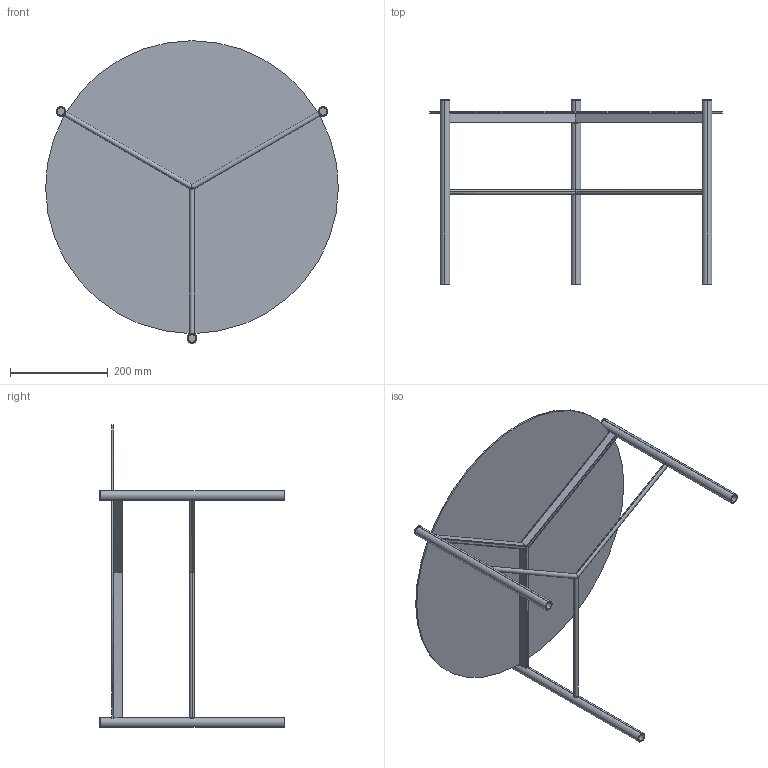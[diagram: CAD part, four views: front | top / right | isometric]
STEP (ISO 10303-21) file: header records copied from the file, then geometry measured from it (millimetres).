
FILE_DESCRIPTION (( 'STEP AP203' ), '1' );
FILE_NAME ('J201S.STEP', '2024-08-06T11:29:03', ( '' ), ( '' ), 'SwSTEP 2.0', 'SolidWorks 2022', '' );
FILE_SCHEMA (( 'CONFIG_CONTROL_DESIGN' ));
Length unit declared in the file: millimetre
Products named in the file (2): JXXXS00000000-00-jack metallo grezzo tutte le misure_J201S00000000-JACK TAVOLINO D.60x36h<A macchina>; J201S
Assembly tree (1 placements, depth 2):
  J201S
    JXXXS00000000-00-jack metallo grezzo tutte le misure_J201S00000000-JACK TAVOLINO D.60x36h<A macchina>
Bounding box: 599.97 x 379 x 620.07 mm (x, y, z)
Volume: 1048731.1 mm3; surface area: 843895.5 mm2
Topology: 13 solids, 13 shells, 121 faces, 287 edges, 190 vertices
Faces by surface type: cylinder 71, plane 50
Entity records: 4317 total; most frequent: CARTESIAN_POINT 1434, ORIENTED_EDGE 574, DIRECTION 521, EDGE_CURVE 287, VERTEX_POINT 190, AXIS2_PLACEMENT_3D 187, VECTOR 147, LINE 147
